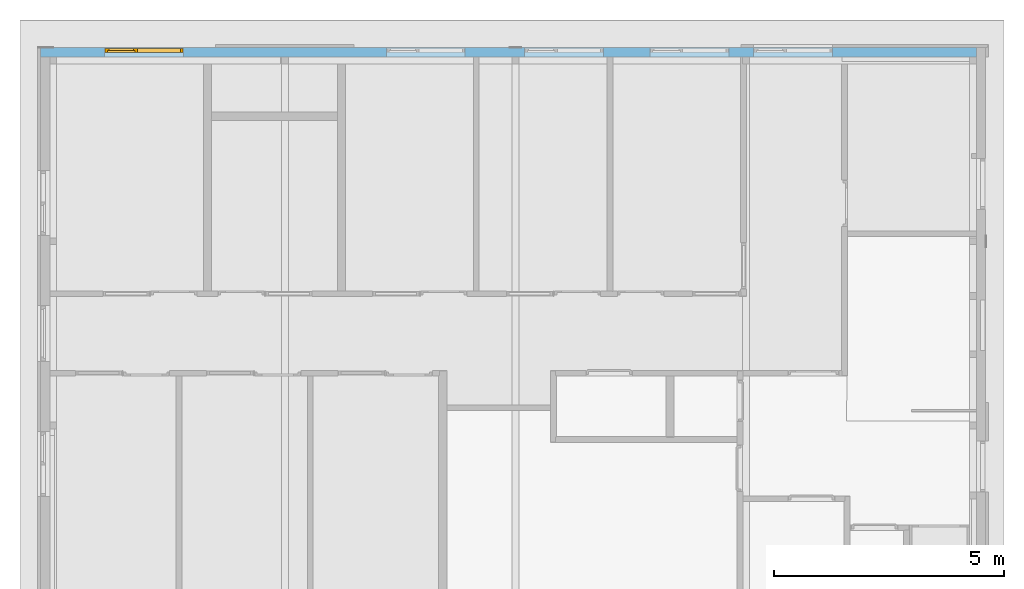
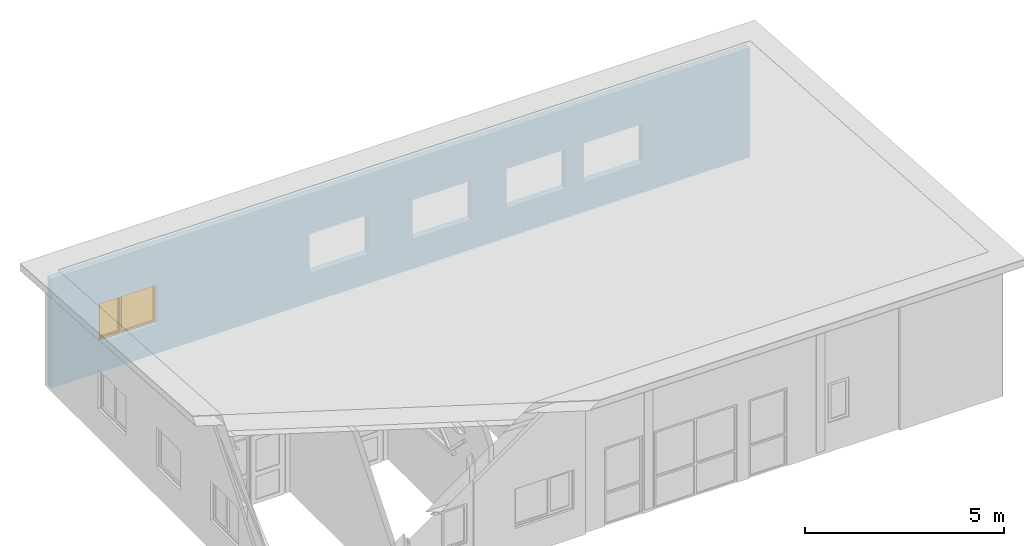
# One storey, part 29 of 37: 1 window, 5 openings, plus 1 element that does not belong to this part.
"""IFC2X3 building model written with IfcOpenShell, lengths in millimetres."""

import ifcopenshell
import ifcopenshell.guid

model = None  # the IFC model being written
_history = None  # IfcOwnerHistory: only IFC2X3 demands one
_inside = {}  # id of a spatial element -> (the spatial element, [elements in it])
_under = {}  # id of a project, library or spatial element -> (it, [spatial elements below it])
_declared = {}  # id of a project -> (the project, [libraries it declares])
_typed = {}  # id of a type object -> (the type object, [elements of that type])
_made_of = {}  # id of a material, layer set ... -> (it, [elements and type objects made of it])


def new_model(schema):
    """Start an empty IFC model of exactly this schema.

    Asked for "IFC4X3", IfcOpenShell would pick the latest addendum, in which some entities
    have other attributes; the version numbers below select the first issue.
    IFC2X3 requires an IfcOwnerHistory on every rooted entity: one is made here for all.
    """
    global model, _history
    if schema == "IFC4X3":
        model = ifcopenshell.file(schema_version=(4, 3, 0, 0))
    else:
        model = ifcopenshell.file(schema=schema)
    _inside.clear()
    _under.clear()
    _declared.clear()
    _typed.clear()
    _made_of.clear()
    _history = None
    if model.schema == "IFC2X3":
        org = make("IfcOrganization", Name="unknown")
        user = make(
            "IfcPersonAndOrganization",
            ThePerson=make("IfcPerson", FamilyName="unknown"),
            TheOrganization=org,
        )
        app = make(
            "IfcApplication",
            ApplicationDeveloper=org,
            Version="unknown",
            ApplicationFullName="unknown",
            ApplicationIdentifier="unknown",
        )
        _history = make(
            "IfcOwnerHistory",
            OwningUser=user,
            OwningApplication=app,
            ChangeAction="ADDED",
            CreationDate=0,
        )
    return model


def make(cls, **values):
    """One entity of the class cls with the attributes given. An attribute that is None is left unset."""
    return model.create_entity(
        cls, **{name: value for name, value in values.items() if value is not None}
    )


def entity(cls, *values):
    """Any entity or typed value of the class cls, its attributes in the order of the schema. None: left unset."""
    e = model.create_entity(cls)
    for i, value in enumerate(values):
        if value is not None:
            e[i] = value
    return e


def rooted(cls, **values):
    """An entity with a GlobalId (a new one), such as an element, a storey or a relation."""
    return make(cls, GlobalId=ifcopenshell.guid.new(), OwnerHistory=_history, **values)


def si_unit(unit_type, name, prefix=None):
    """IfcSIUnit, for example si_unit("LENGTHUNIT", "METRE", prefix="MILLI")."""
    return make("IfcSIUnit", UnitType=unit_type, Prefix=prefix, Name=name)


def converted_unit(unit_type, name, factor, base, dimensions=None, offset=None):
    """IfcConversionBasedUnit, such as the inch: factor (a typed value) times the base unit."""
    return make(
        "IfcConversionBasedUnit"
        if offset is None
        else "IfcConversionBasedUnitWithOffset",
        ConversionOffset=offset,
        Dimensions=None
        if dimensions is None
        else entity("IfcDimensionalExponents", *dimensions),
        UnitType=unit_type,
        Name=name,
        ConversionFactor=make(
            "IfcMeasureWithUnit", ValueComponent=factor, UnitComponent=base
        ),
    )


def assignment(units):
    """IfcUnitAssignment: the units of a project."""
    return None if units is None else make("IfcUnitAssignment", Units=units)


def point(xyz):
    """IfcCartesianPoint."""
    return None if xyz is None else make("IfcCartesianPoint", Coordinates=xyz)


def direction(xyz):
    """IfcDirection."""
    return None if xyz is None else make("IfcDirection", DirectionRatios=xyz)


def frame(location, z_axis=None, x_axis=None):
    """IfcAxis2Placement3D, a coordinate frame: its origin and axes. An axis left out is left unset."""
    return make(
        "IfcAxis2Placement3D",
        Location=point(location),
        Axis=direction(z_axis),
        RefDirection=direction(x_axis),
    )


def frame_2d(location, x_axis=None):
    """IfcAxis2Placement2D, a coordinate frame in the plane: its origin and x axis."""
    return make(
        "IfcAxis2Placement2D", Location=point(location), RefDirection=direction(x_axis)
    )


def origin():
    """The frame at (0, 0, 0) with its axes left unset."""
    return frame((0.0, 0.0, 0.0))


def origin_with_axes():
    """The frame at (0, 0, 0) with the z axis (0, 0, 1) and the x axis (1, 0, 0) written out."""
    return frame((0.0, 0.0, 0.0), z_axis=(0.0, 0.0, 1.0), x_axis=(1.0, 0.0, 0.0))


def place(relative_to, where):
    """IfcLocalPlacement: puts the frame where relative to a parent placement (None: the world)."""
    return make(
        "IfcLocalPlacement", PlacementRelTo=relative_to, RelativePlacement=where
    )


def context(
    kind, dimensions, precision=None, world=None, true_north=None, identifier=None
):
    """IfcGeometricRepresentationContext, for example the 3D "Model" context."""
    return make(
        "IfcGeometricRepresentationContext",
        ContextIdentifier=identifier,
        ContextType=kind,
        CoordinateSpaceDimension=dimensions,
        Precision=precision,
        WorldCoordinateSystem=world,
        TrueNorth=true_north,
    )


def subcontext(parent, identifier, kind, view, scale=None):
    """IfcGeometricRepresentationSubContext, for example "Body" below "Model"."""
    return make(
        "IfcGeometricRepresentationSubContext",
        ContextIdentifier=identifier,
        ContextType=kind,
        ParentContext=parent,
        TargetScale=scale,
        TargetView=view,
    )


def project(units=None, contexts=None):
    """IfcProject with its units and contexts."""
    return rooted(
        "IfcProject",
        Name="project",
        RepresentationContexts=contexts,
        UnitsInContext=assignment(units),
    )


def spatial(cls, under=None, at=None, **own):
    """A site, building, storey or space (cls), placed at a placement, below another one or the project."""
    s = rooted(cls, ObjectPlacement=at, **own)
    if under is not None:
        _under.setdefault(under.id(), (under, []))[1].append(s)
    return s


def profile(cls, at=None, kind="AREA", **sizes):
    """A parametric profile (cls). Its sizes go by their IFC names, for example OverallWidth=200.0."""
    return make(cls, ProfileType=kind, Position=at, **sizes)


def rectangle(**sizes):
    """IfcRectangleProfileDef."""
    return profile("IfcRectangleProfileDef", **sizes)


def extrude(swept, where, along, depth):
    """IfcExtrudedAreaSolid: the profile swept, set in the frame where, extruded along a direction by depth."""
    return make(
        "IfcExtrudedAreaSolid",
        SweptArea=swept,
        Position=where,
        ExtrudedDirection=direction(along),
        Depth=depth,
    )


def clip(a, b, op="DIFFERENCE"):
    """IfcBooleanClippingResult: the solid a cut by the half space b."""
    return make(
        "IfcBooleanClippingResult", Operator=op, FirstOperand=a, SecondOperand=b
    )


def halfspace(plane, agree):
    """IfcHalfSpaceSolid: all space on one side of the plane z = 0 of the frame plane."""
    return make(
        "IfcHalfSpaceSolid",
        BaseSurface=make("IfcPlane", Position=plane),
        AgreementFlag=agree,
    )


def faces_of(points, faces, orient=None, outer=None):
    """IfcFace entities. A face is a list of loops; a loop is a list of indices into points, from 0.

    orient and outer hold one flag for each loop. By default every Orientation is true, the
    first loop of a face is its IfcFaceOuterBound and the others are IfcFaceBound.
    """
    made = []
    for i, loops in enumerate(faces):
        bounds = []
        for j, loop in enumerate(loops):
            is_outer = j == 0 if outer is None else outer[i][j]
            bounds.append(
                make(
                    "IfcFaceOuterBound" if is_outer else "IfcFaceBound",
                    Bound=make("IfcPolyLoop", Polygon=[points[k] for k in loop]),
                    Orientation=True if orient is None else orient[i][j],
                )
            )
        made.append(make("IfcFace", Bounds=bounds))
    return made


def faceted_brep(points, faces, orient=None, outer=None, voids=None):
    """IfcFacetedBrep: a solid bounded by flat faces; with voids (closed shells), ...WithVoids."""
    shared = [point(p) for p in points]
    hull = make("IfcClosedShell", CfsFaces=faces_of(shared, faces, orient, outer))
    if voids is None:
        return make("IfcFacetedBrep", Outer=hull)
    return make(
        "IfcFacetedBrepWithVoids",
        Outer=hull,
        Voids=[
            make(cls, CfsFaces=faces_of(shared, fs, o, b)) for cls, fs, o, b in voids
        ],
    )


def shape(context_of_items, identifier, shape_type, items):
    """IfcShapeRepresentation: the items that make up one representation, for example the "Body"."""
    return make(
        "IfcShapeRepresentation",
        ContextOfItems=context_of_items,
        RepresentationIdentifier=identifier,
        RepresentationType=shape_type,
        Items=items,
    )


def material(Name=None, Category=None):
    """IfcMaterial."""
    return make("IfcMaterial", Name=Name, Category=Category)


def layer(
    of_material, thickness, ventilated=None, Name=None, Category=None, Priority=None
):
    """IfcMaterialLayer: one layer of a wall or slab, of a material (None: an air gap)."""
    return make(
        "IfcMaterialLayer",
        Material=of_material,
        LayerThickness=thickness,
        IsVentilated=ventilated,
        Name=Name,
        Category=Category,
        Priority=Priority,
    )


def layer_set(layers, Name=None):
    """IfcMaterialLayerSet."""
    return make("IfcMaterialLayerSet", MaterialLayers=layers, LayerSetName=Name)


def layer_usage(for_layer_set, set_direction, sense, offset, extent=None):
    """IfcMaterialLayerSetUsage: how a layer set lies in its element."""
    return make(
        "IfcMaterialLayerSetUsage",
        ForLayerSet=for_layer_set,
        LayerSetDirection=set_direction,
        DirectionSense=sense,
        OffsetFromReferenceLine=offset,
        ReferenceExtent=extent,
    )


def made_of(thing, what):
    """Note that an element or type object is made of a material, layer set ...; save() writes the relation."""
    if what is not None:
        _made_of.setdefault(what.id(), (what, []))[1].append(thing)
    return thing


def type_object(cls, material=None, **own):
    """A type object (cls), such as IfcWallType, which elements share."""
    return made_of(rooted(cls, **own), material)


def element(
    cls,
    number,
    at=None,
    inside=None,
    cuts=None,
    type_object=None,
    material=None,
    context=None,
    identifier="Body",
    shape_type=None,
    held_by="IfcProductDefinitionShape",
    body=None,
    shapes=None,
    **own,
):
    """One element of the class cls, such as IfcWall. Its Tag is "e" and its number.

    at: its placement. inside: the storey or other place that contains it. cuts: it is an
    opening in that element (IfcRelVoidsElement). A single representation is given by context,
    identifier, shape_type and body (its items); several are given by shapes. held_by: the class
    of the entity that holds the representations. save() writes the other relations.
    """
    e = rooted(cls, Tag="e%d" % number, ObjectPlacement=at, **own)
    if body is not None:
        shapes = [shape(context, identifier, shape_type, body)]
    if shapes is not None:
        e.Representation = make(held_by, Representations=shapes)
    if inside is not None:
        _inside.setdefault(inside.id(), (inside, []))[1].append(e)
    if cuts is not None:
        rooted(
            "IfcRelVoidsElement", RelatingBuildingElement=cuts, RelatedOpeningElement=e
        )
    if type_object is not None:
        _typed.setdefault(type_object.id(), (type_object, []))[1].append(e)
    return made_of(e, material)


def fill(opening, filler):
    """IfcRelFillsElement: the door or window that sits in an opening."""
    return rooted(
        "IfcRelFillsElement",
        RelatingOpeningElement=opening,
        RelatedBuildingElement=filler,
    )


def aggregate(whole, parts):
    """IfcRelAggregates: a whole, such as a stair, and the parts it consists of."""
    return rooted("IfcRelAggregates", RelatingObject=whole, RelatedObjects=parts)


def save(model, path):
    """Write the relations noted so far, then the file.

    IfcRelAggregates (storeys below a building ...), IfcRelContainedInSpatialStructure (elements
    in a storey), IfcRelDefinesByType, IfcRelAssociatesMaterial and IfcRelDeclares: one each for
    every whole, place, type object, material and project.
    """
    for whole, parts in _under.values():
        aggregate(whole, parts)
    for where, things in _inside.values():
        rooted(
            "IfcRelContainedInSpatialStructure",
            RelatedElements=things,
            RelatingStructure=where,
        )
    for kind, things in _typed.values():
        rooted("IfcRelDefinesByType", RelatedObjects=things, RelatingType=kind)
    for what, things in _made_of.values():
        rooted("IfcRelAssociatesMaterial", RelatedObjects=things, RelatingMaterial=what)
    for by, libraries in _declared.values():
        rooted("IfcRelDeclares", RelatingContext=by, RelatedDefinitions=libraries)
    model.write(path)


model = new_model("IFC2X3")

# Units and contexts
model_context = context("Model", 3, precision=1e-05, world=origin())
plan_context = context("Plan", 3, precision=1e-05, world=origin())
body_context = subcontext(model_context, "Body", "Model", "MODEL_VIEW")
ifc_project = project(units=[si_unit("LENGTHUNIT", "METRE", prefix="MILLI"), converted_unit("PLANEANGLEUNIT", "DEGREE", entity("IfcPlaneAngleMeasure", 0.0174532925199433), si_unit("PLANEANGLEUNIT", "RADIAN"), dimensions=[0, 0, 0, 0, 0, 0, 0]), si_unit("AREAUNIT", "SQUARE_METRE"), si_unit("VOLUMEUNIT", "CUBIC_METRE")], contexts=[model_context, plan_context])

# Building, storey
building_placement = place(None, origin())
building = spatial("IfcBuilding", under=ifc_project, at=building_placement, Name="HEKF Administrasjonbygg", CompositionType="ELEMENT")
storey_placement = place(building_placement, frame((0.0, 0.0, 9900.0), z_axis=(0.0, 0.0, 1.0), x_axis=(1.0, 0.0, 0.0)))
storey = spatial("IfcBuildingStorey", under=building, at=storey_placement, Name="Plan 2", CompositionType="ELEMENT", Elevation=9900.0)

# Wall, openings, window
ifc_material_1 = material(Name="Paroc 200")
ifc_layer = layer(ifc_material_1, 200.0)
ifc_layer_set = layer_set([ifc_layer])
ifc_layer_usage = layer_usage(ifc_layer_set, "AXIS2", "POSITIVE", 0.0)
wall_placement = place(storey_placement, frame((9699.999999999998, 0.0, 0.0), z_axis=(0.0, 0.0, 1.0), x_axis=(1.0, 0.0, 0.0)))
wall = element("IfcWallStandardCase", 1, at=wall_placement, inside=storey, material=ifc_layer_usage, context=body_context, shape_type="Clipping", body=[
    clip(extrude(rectangle(XDim=20300.0, YDim=200.0, at=frame_2d((10150.0, 100.0), x_axis=(1.0, 0.0))), origin_with_axes(), (0.0, 0.0, 1.0), 3349.999999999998), halfspace(frame((0.0, 0.0, 3349.999999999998), z_axis=(0.0, -0.06651901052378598, -0.9977851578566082), x_axis=(1.0, 0.0, 0.0)), True)),
])
opening_1_placement = place(wall_placement, frame((15470.0, 0.0, 900.0), z_axis=(0.0, 1.0, 0.0), x_axis=(0.0, 0.0, 1.0)))
element("IfcOpeningElement", 2, at=opening_1_placement, cuts=wall, Name="Window opening", ObjectType="Opening", context=body_context, shape_type="SweptSolid", body=[
    extrude(rectangle(XDim=1210.0, YDim=1710.0, at=frame_2d((605.0, 855.0), x_axis=(1.0, 0.0))), origin_with_axes(), (0.0, 0.0, 1.0), 200.0),
])
opening_2_placement = place(wall_placement, frame((7500.000000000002, 0.0, 900.0), z_axis=(0.0, 1.0, 0.0), x_axis=(0.0, 0.0, 1.0)))
element("IfcOpeningElement", 3, at=opening_2_placement, cuts=wall, Name="Window opening", ObjectType="Opening", context=body_context, shape_type="SweptSolid", body=[
    extrude(rectangle(XDim=1210.0, YDim=1710.0, at=frame_2d((605.0, 855.0), x_axis=(1.0, 0.0))), origin_with_axes(), (0.0, 0.0, 1.0), 200.0),
])
opening_3_placement = place(wall_placement, frame((13220.0, 0.0, 900.0), z_axis=(0.0, 1.0, 0.0), x_axis=(0.0, 0.0, 1.0)))
element("IfcOpeningElement", 4, at=opening_3_placement, cuts=wall, Name="Window opening", ObjectType="Opening", context=body_context, shape_type="SweptSolid", body=[
    extrude(rectangle(XDim=1210.0, YDim=1710.0, at=frame_2d((605.0, 855.0), x_axis=(1.0, 0.0))), origin_with_axes(), (0.0, 0.0, 1.0), 200.0),
])
opening_4_placement = place(wall_placement, frame((10500.0, 0.0, 900.0), z_axis=(0.0, 1.0, 0.0), x_axis=(0.0, 0.0, 1.0)))
element("IfcOpeningElement", 5, at=opening_4_placement, cuts=wall, Name="Window opening", ObjectType="Opening", context=body_context, shape_type="SweptSolid", body=[
    extrude(rectangle(XDim=1210.0, YDim=1710.0, at=frame_2d((605.0, 855.0), x_axis=(1.0, 0.0))), origin_with_axes(), (0.0, 0.0, 1.0), 200.0),
])
opening_5_placement = place(wall_placement, frame((1390.000000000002, 0.0, 900.0), z_axis=(0.0, 1.0, 0.0), x_axis=(0.0, 0.0, 1.0)))
opening_5 = element("IfcOpeningElement", 6, at=opening_5_placement, cuts=wall, Name="Window opening", ObjectType="Opening", context=body_context, shape_type="SweptSolid", body=[
    extrude(rectangle(XDim=1210.0, YDim=1710.0, at=frame_2d((605.0, 855.0), x_axis=(1.0, 0.0))), origin_with_axes(), (0.0, 0.0, 1.0), 200.0),
])
ifc_material_2 = material()
window_style = type_object("IfcWindowStyle", Name="V214", ConstructionType="NOTDEFINED", OperationType="USERDEFINED", ParameterTakesPrecedence=False, Sizeable=False)
window_placement = place(opening_5_placement, frame((0.0, 0.0, 0.0), z_axis=(1.0, 0.0, 0.0), x_axis=(0.0, 1.0, 0.0)))
window = element("IfcWindow", 7, at=window_placement, inside=storey, type_object=window_style, material=ifc_material_2, Name="V214", OverallHeight=1210.0, OverallWidth=1710.0, context=body_context, shape_type="Brep", body=[
    faceted_brep([(1700.0, 93.99999999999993, 1200.0), (1700.0, 94.0, 9.999999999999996), (1650.0, 94.00000000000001, 9.999999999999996), (1650.0, 93.99999999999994, 1200.0), (1700.0, 186.0, 10.0), (1700.0, 185.9999999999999, 1200.0), (1650.0, 185.9999999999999, 1200.0), (1650.0, 186.0, 10.0), (1700.0, 94.0, 9.999999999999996), (1700.0, 93.99999999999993, 1200.0), (1700.0, 185.9999999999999, 1200.0), (1700.0, 186.0, 10.0), (1650.0, 94.00000000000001, 9.999999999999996), (1700.0, 94.0, 9.999999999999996), (1700.0, 186.0, 10.0), (1650.0, 186.0, 10.0), (1650.0, 93.99999999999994, 1200.0), (1650.0, 94.00000000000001, 9.999999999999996), (1650.0, 186.0, 10.0), (1650.0, 185.9999999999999, 1200.0), (1700.0, 93.99999999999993, 1200.0), (1650.0, 93.99999999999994, 1200.0), (1650.0, 185.9999999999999, 1200.0), (1700.0, 185.9999999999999, 1200.0)], [[[0, 1, 2, 3]], [[4, 5, 6, 7]], [[8, 9, 10, 11]], [[12, 13, 14, 15]], [[16, 17, 18, 19]], [[20, 21, 22, 23]]], orient=[[False], [False], [False], [False], [False], [False]]),
    faceted_brep([(60.0, 94.00000000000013, 1200.0), (60.0, 94.0000000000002, 9.999999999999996), (10.0, 94.00000000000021, 9.999999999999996), (10.0, 94.00000000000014, 1200.0), (60.0, 186.0000000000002, 10.0), (60.0, 186.0000000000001, 1200.0), (10.0, 186.0000000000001, 1200.0), (10.0, 186.0000000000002, 10.0), (60.0, 94.0000000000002, 9.999999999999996), (60.0, 94.00000000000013, 1200.0), (60.0, 186.0000000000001, 1200.0), (60.0, 186.0000000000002, 10.0), (10.0, 94.00000000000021, 9.999999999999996), (60.0, 94.0000000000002, 9.999999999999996), (60.0, 186.0000000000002, 10.0), (10.0, 186.0000000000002, 10.0), (10.0, 94.00000000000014, 1200.0), (10.0, 94.00000000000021, 9.999999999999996), (10.0, 186.0000000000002, 10.0), (10.0, 186.0000000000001, 1200.0), (60.0, 94.00000000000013, 1200.0), (10.0, 94.00000000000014, 1200.0), (10.0, 186.0000000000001, 1200.0), (60.0, 186.0000000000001, 1200.0)], [[[0, 1, 2, 3]], [[4, 5, 6, 7]], [[8, 9, 10, 11]], [[12, 13, 14, 15]], [[16, 17, 18, 19]], [[20, 21, 22, 23]]], orient=[[False], [False], [False], [False], [False], [False]]),
    faceted_brep([(1650.0, 94.00000000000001, 60.0), (1650.0, 94.00000000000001, 9.999999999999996), (60.00000000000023, 94.0000000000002, 9.999999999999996), (60.00000000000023, 94.0000000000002, 60.0), (1650.0, 186.0, 10.0), (1650.0, 186.0, 60.0), (60.00000000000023, 186.0000000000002, 60.0), (60.00000000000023, 186.0000000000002, 10.0), (1650.0, 94.00000000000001, 9.999999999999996), (1650.0, 94.00000000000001, 60.0), (1650.0, 186.0, 60.0), (1650.0, 186.0, 10.0), (60.00000000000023, 94.0000000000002, 9.999999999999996), (1650.0, 94.00000000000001, 9.999999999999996), (1650.0, 186.0, 10.0), (60.00000000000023, 186.0000000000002, 10.0), (60.00000000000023, 94.0000000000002, 60.0), (60.00000000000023, 94.0000000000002, 9.999999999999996), (60.00000000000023, 186.0000000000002, 10.0), (60.00000000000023, 186.0000000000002, 60.0), (1650.0, 94.00000000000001, 60.0), (60.00000000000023, 94.0000000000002, 60.0), (60.00000000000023, 186.0000000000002, 60.0), (1650.0, 186.0, 60.0)], [[[0, 1, 2, 3]], [[4, 5, 6, 7]], [[8, 9, 10, 11]], [[12, 13, 14, 15]], [[16, 17, 18, 19]], [[20, 21, 22, 23]]], orient=[[False], [False], [False], [False], [False], [False]]),
    faceted_brep([(1650.0, 93.99999999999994, 1200.0), (1650.0, 93.99999999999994, 1150.0), (60.00000000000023, 94.00000000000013, 1150.0), (60.00000000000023, 94.00000000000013, 1200.0), (1650.0, 185.9999999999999, 1150.0), (1650.0, 185.9999999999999, 1200.0), (60.00000000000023, 186.0000000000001, 1200.0), (60.00000000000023, 186.0000000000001, 1150.0), (1650.0, 93.99999999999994, 1150.0), (1650.0, 93.99999999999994, 1200.0), (1650.0, 185.9999999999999, 1200.0), (1650.0, 185.9999999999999, 1150.0), (60.00000000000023, 94.00000000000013, 1150.0), (1650.0, 93.99999999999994, 1150.0), (1650.0, 185.9999999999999, 1150.0), (60.00000000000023, 186.0000000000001, 1150.0), (60.00000000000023, 94.00000000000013, 1200.0), (60.00000000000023, 94.00000000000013, 1150.0), (60.00000000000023, 186.0000000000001, 1150.0), (60.00000000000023, 186.0000000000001, 1200.0), (1650.0, 93.99999999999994, 1200.0), (60.00000000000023, 94.00000000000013, 1200.0), (60.00000000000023, 186.0000000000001, 1200.0), (1650.0, 185.9999999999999, 1200.0)], [[[0, 1, 2, 3]], [[4, 5, 6, 7]], [[8, 9, 10, 11]], [[12, 13, 14, 15]], [[16, 17, 18, 19]], [[20, 21, 22, 23]]], orient=[[False], [False], [False], [False], [False], [False]]),
    faceted_brep([(710.0000000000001, 94.00000000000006, 1150.0), (710.0000000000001, 94.00000000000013, 60.00000000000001), (660.0, 94.00000000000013, 60.00000000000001), (660.0, 94.00000000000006, 1150.0), (710.0000000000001, 186.0000000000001, 60.00000000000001), (710.0000000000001, 186.0000000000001, 1150.0), (660.0, 186.0000000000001, 1150.0), (660.0, 186.0000000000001, 60.00000000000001), (710.0000000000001, 94.00000000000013, 60.00000000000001), (710.0000000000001, 94.00000000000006, 1150.0), (710.0000000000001, 186.0000000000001, 1150.0), (710.0000000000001, 186.0000000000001, 60.00000000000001), (660.0, 94.00000000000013, 60.00000000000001), (710.0000000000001, 94.00000000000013, 60.00000000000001), (710.0000000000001, 186.0000000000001, 60.00000000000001), (660.0, 186.0000000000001, 60.00000000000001), (660.0, 94.00000000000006, 1150.0), (660.0, 94.00000000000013, 60.00000000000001), (660.0, 186.0000000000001, 60.00000000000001), (660.0, 186.0000000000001, 1150.0), (710.0000000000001, 94.00000000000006, 1150.0), (660.0, 94.00000000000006, 1150.0), (660.0, 186.0000000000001, 1150.0), (710.0000000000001, 186.0000000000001, 1150.0)], [[[0, 1, 2, 3]], [[4, 5, 6, 7]], [[8, 9, 10, 11]], [[12, 13, 14, 15]], [[16, 17, 18, 19]], [[20, 21, 22, 23]]], orient=[[False], [False], [False], [False], [False], [False]]),
    faceted_brep([(1650.0, 140.0, 60.00000000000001), (710.0000000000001, 140.0000000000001, 60.00000000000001), (710.0000000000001, 140.0000000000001, 1150.0), (1650.0, 139.9999999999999, 1150.0), (1650.0, 141.0, 60.00000000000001), (1650.0, 140.9999999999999, 1150.0), (710.0000000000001, 141.0000000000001, 1150.0), (710.0000000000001, 141.0000000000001, 60.00000000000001), (1650.0, 140.0, 60.00000000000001), (1650.0, 141.0, 60.00000000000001), (710.0000000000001, 141.0000000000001, 60.00000000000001), (710.0000000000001, 140.0000000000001, 60.00000000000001), (710.0000000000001, 140.0000000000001, 60.00000000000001), (710.0000000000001, 141.0000000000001, 60.00000000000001), (710.0000000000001, 141.0000000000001, 1150.0), (710.0000000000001, 140.0000000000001, 1150.0), (710.0000000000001, 140.0000000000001, 1150.0), (710.0000000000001, 141.0000000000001, 1150.0), (1650.0, 140.9999999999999, 1150.0), (1650.0, 139.9999999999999, 1150.0), (1650.0, 139.9999999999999, 1150.0), (1650.0, 140.9999999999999, 1150.0), (1650.0, 141.0, 60.00000000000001), (1650.0, 140.0, 60.00000000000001)], [[[0, 1, 2, 3]], [[4, 5, 6, 7]], [[8, 9, 10, 11]], [[12, 13, 14, 15]], [[16, 17, 18, 19]], [[20, 21, 22, 23]]], orient=[[False], [False], [False], [False], [False], [False]]),
    faceted_brep([(680.0000000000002, 136.0000000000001, 1170.0), (680.0000000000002, 136.0000000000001, 40.0), (630.0000000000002, 136.0000000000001, 40.0), (630.0000000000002, 136.0000000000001, 1170.0), (680.0000000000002, 186.0000000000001, 40.0), (680.0000000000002, 186.0000000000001, 1170.0), (630.0000000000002, 186.0000000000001, 1170.0), (630.0000000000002, 186.0000000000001, 40.0), (680.0000000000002, 136.0000000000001, 40.0), (680.0000000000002, 136.0000000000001, 1170.0), (680.0000000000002, 186.0000000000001, 1170.0), (680.0000000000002, 186.0000000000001, 40.0), (630.0000000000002, 136.0000000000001, 40.0), (680.0000000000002, 136.0000000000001, 40.0), (680.0000000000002, 186.0000000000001, 40.0), (630.0000000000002, 186.0000000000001, 40.0), (630.0000000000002, 136.0000000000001, 1170.0), (630.0000000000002, 136.0000000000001, 40.0), (630.0000000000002, 186.0000000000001, 40.0), (630.0000000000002, 186.0000000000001, 1170.0), (680.0000000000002, 136.0000000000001, 1170.0), (630.0000000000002, 136.0000000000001, 1170.0), (630.0000000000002, 186.0000000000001, 1170.0), (680.0000000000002, 186.0000000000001, 1170.0)], [[[0, 1, 2, 3]], [[4, 5, 6, 7]], [[8, 9, 10, 11]], [[12, 13, 14, 15]], [[16, 17, 18, 19]], [[20, 21, 22, 23]]], orient=[[False], [False], [False], [False], [False], [False]]),
    faceted_brep([(90.00000000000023, 136.0000000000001, 1170.0), (90.00000000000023, 136.0000000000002, 40.0), (40.00000000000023, 136.0000000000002, 40.0), (40.00000000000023, 136.0000000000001, 1170.0), (90.00000000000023, 186.0000000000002, 40.0), (90.00000000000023, 186.0000000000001, 1170.0), (40.00000000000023, 186.0000000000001, 1170.0), (40.00000000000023, 186.0000000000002, 40.0), (90.00000000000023, 136.0000000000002, 40.0), (90.00000000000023, 136.0000000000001, 1170.0), (90.00000000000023, 186.0000000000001, 1170.0), (90.00000000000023, 186.0000000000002, 40.0), (40.00000000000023, 136.0000000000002, 40.0), (90.00000000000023, 136.0000000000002, 40.0), (90.00000000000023, 186.0000000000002, 40.0), (40.00000000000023, 186.0000000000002, 40.0), (40.00000000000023, 136.0000000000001, 1170.0), (40.00000000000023, 136.0000000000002, 40.0), (40.00000000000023, 186.0000000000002, 40.0), (40.00000000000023, 186.0000000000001, 1170.0), (90.00000000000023, 136.0000000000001, 1170.0), (40.00000000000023, 136.0000000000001, 1170.0), (40.00000000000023, 186.0000000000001, 1170.0), (90.00000000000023, 186.0000000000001, 1170.0)], [[[0, 1, 2, 3]], [[4, 5, 6, 7]], [[8, 9, 10, 11]], [[12, 13, 14, 15]], [[16, 17, 18, 19]], [[20, 21, 22, 23]]], orient=[[False], [False], [False], [False], [False], [False]]),
    faceted_brep([(630.0000000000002, 136.0000000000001, 90.0), (630.0000000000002, 136.0000000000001, 40.0), (90.00000000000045, 136.0000000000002, 40.0), (90.00000000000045, 136.0000000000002, 90.0), (630.0000000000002, 186.0000000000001, 40.0), (630.0000000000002, 186.0000000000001, 90.0), (90.00000000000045, 186.0000000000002, 90.0), (90.00000000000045, 186.0000000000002, 40.0), (630.0000000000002, 136.0000000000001, 40.0), (630.0000000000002, 136.0000000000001, 90.0), (630.0000000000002, 186.0000000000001, 90.0), (630.0000000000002, 186.0000000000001, 40.0), (90.00000000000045, 136.0000000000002, 40.0), (630.0000000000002, 136.0000000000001, 40.0), (630.0000000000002, 186.0000000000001, 40.0), (90.00000000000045, 186.0000000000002, 40.0), (90.00000000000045, 136.0000000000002, 90.0), (90.00000000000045, 136.0000000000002, 40.0), (90.00000000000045, 186.0000000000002, 40.0), (90.00000000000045, 186.0000000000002, 90.0), (630.0000000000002, 136.0000000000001, 90.0), (90.00000000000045, 136.0000000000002, 90.0), (90.00000000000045, 186.0000000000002, 90.0), (630.0000000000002, 186.0000000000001, 90.0)], [[[0, 1, 2, 3]], [[4, 5, 6, 7]], [[8, 9, 10, 11]], [[12, 13, 14, 15]], [[16, 17, 18, 19]], [[20, 21, 22, 23]]], orient=[[False], [False], [False], [False], [False], [False]]),
    faceted_brep([(630.0000000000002, 136.0000000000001, 1170.0), (630.0000000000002, 136.0000000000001, 1120.0), (90.00000000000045, 136.0000000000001, 1120.0), (90.00000000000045, 136.0000000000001, 1170.0), (630.0000000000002, 186.0000000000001, 1120.0), (630.0000000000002, 186.0000000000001, 1170.0), (90.00000000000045, 186.0000000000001, 1170.0), (90.00000000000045, 186.0000000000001, 1120.0), (630.0000000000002, 136.0000000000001, 1120.0), (630.0000000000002, 136.0000000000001, 1170.0), (630.0000000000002, 186.0000000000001, 1170.0), (630.0000000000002, 186.0000000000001, 1120.0), (90.00000000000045, 136.0000000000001, 1120.0), (630.0000000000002, 136.0000000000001, 1120.0), (630.0000000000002, 186.0000000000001, 1120.0), (90.00000000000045, 186.0000000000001, 1120.0), (90.00000000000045, 136.0000000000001, 1170.0), (90.00000000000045, 136.0000000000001, 1120.0), (90.00000000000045, 186.0000000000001, 1120.0), (90.00000000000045, 186.0000000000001, 1170.0), (630.0000000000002, 136.0000000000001, 1170.0), (90.00000000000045, 136.0000000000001, 1170.0), (90.00000000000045, 186.0000000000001, 1170.0), (630.0000000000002, 186.0000000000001, 1170.0)], [[[0, 1, 2, 3]], [[4, 5, 6, 7]], [[8, 9, 10, 11]], [[12, 13, 14, 15]], [[16, 17, 18, 19]], [[20, 21, 22, 23]]], orient=[[False], [False], [False], [False], [False], [False]]),
    faceted_brep([(630.0000000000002, 161.0000000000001, 90.00000000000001), (90.00000000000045, 161.0000000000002, 90.00000000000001), (90.00000000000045, 161.0000000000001, 1120.0), (630.0000000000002, 161.0000000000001, 1120.0), (630.0000000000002, 162.0000000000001, 90.00000000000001), (630.0000000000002, 162.0000000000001, 1120.0), (90.00000000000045, 162.0000000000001, 1120.0), (90.00000000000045, 162.0000000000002, 90.00000000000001), (630.0000000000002, 161.0000000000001, 90.00000000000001), (630.0000000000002, 162.0000000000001, 90.00000000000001), (90.00000000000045, 162.0000000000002, 90.00000000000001), (90.00000000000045, 161.0000000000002, 90.00000000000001), (90.00000000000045, 161.0000000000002, 90.00000000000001), (90.00000000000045, 162.0000000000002, 90.00000000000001), (90.00000000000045, 162.0000000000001, 1120.0), (90.00000000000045, 161.0000000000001, 1120.0), (90.00000000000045, 161.0000000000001, 1120.0), (90.00000000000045, 162.0000000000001, 1120.0), (630.0000000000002, 162.0000000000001, 1120.0), (630.0000000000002, 161.0000000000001, 1120.0), (630.0000000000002, 161.0000000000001, 1120.0), (630.0000000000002, 162.0000000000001, 1120.0), (630.0000000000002, 162.0000000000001, 90.00000000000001), (630.0000000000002, 161.0000000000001, 90.00000000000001)], [[[0, 1, 2, 3]], [[4, 5, 6, 7]], [[8, 9, 10, 11]], [[12, 13, 14, 15]], [[16, 17, 18, 19]], [[20, 21, 22, 23]]], orient=[[False], [False], [False], [False], [False], [False]]),
])
fill(opening_5, window)

save(model, "model.ifc")
